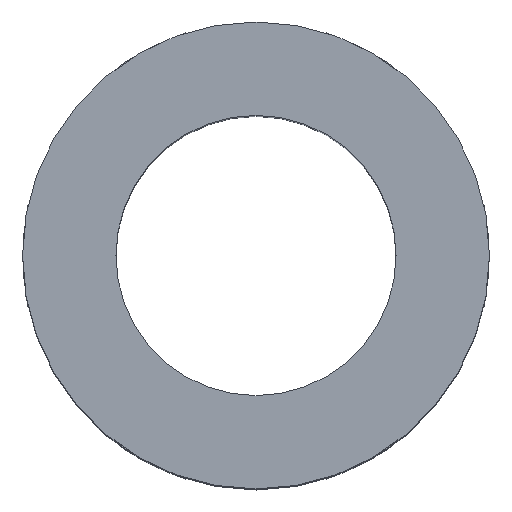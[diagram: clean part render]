
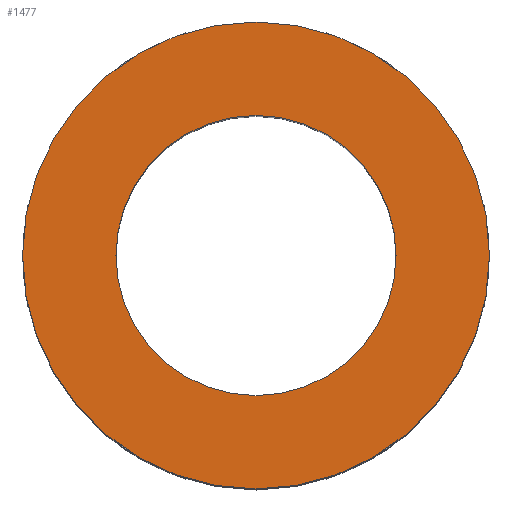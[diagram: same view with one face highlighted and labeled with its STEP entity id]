
A CAD part, top view. The second image highlights one B-rep face of the part: STEP entity #1477.
In plain terms, the highlighted planar face has unit normal (0, 0, 1).
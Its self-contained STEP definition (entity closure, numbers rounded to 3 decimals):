
#51=CARTESIAN_POINT('',(-15.875,0.,41.));
#52=VERTEX_POINT('',#51);
#68=CARTESIAN_POINT('',(15.875,0.,41.));
#69=VERTEX_POINT('',#68);
#76=CARTESIAN_POINT('',(0.0,0.0,41.));
#77=DIRECTION('',(0.0,0.0,-1.0));
#78=DIRECTION('',(-1.0,0.0,0.0));
#79=AXIS2_PLACEMENT_3D('',#76,#77,#78);
#80=CIRCLE('',#79,15.875);
#81=EDGE_CURVE('',#69,#52,#80,.T.);
#91=CARTESIAN_POINT('',(-9.525,0.,41.));
#92=VERTEX_POINT('',#91);
#101=CARTESIAN_POINT('',(9.525,0.,41.));
#102=VERTEX_POINT('',#101);
#103=CARTESIAN_POINT('',(0.0,0.0,41.));
#104=DIRECTION('',(0.0,0.0,-1.0));
#105=DIRECTION('',(-1.0,0.0,0.0));
#106=AXIS2_PLACEMENT_3D('',#103,#104,#105);
#107=CIRCLE('',#106,9.525);
#108=EDGE_CURVE('',#102,#92,#107,.T.);
#1436=CARTESIAN_POINT('',(0.0,0.0,41.));
#1437=DIRECTION('',(0.0,0.0,-1.0));
#1438=DIRECTION('',(-1.0,0.0,0.0));
#1439=AXIS2_PLACEMENT_3D('',#1436,#1437,#1438);
#1440=CIRCLE('',#1439,9.525);
#1441=EDGE_CURVE('',#92,#102,#1440,.T.);
#1452=CARTESIAN_POINT('',(0.0,0.0,41.));
#1453=DIRECTION('',(0.0,0.0,-1.0));
#1454=DIRECTION('',(-1.0,0.0,0.0));
#1455=AXIS2_PLACEMENT_3D('',#1452,#1453,#1454);
#1456=CIRCLE('',#1455,15.875);
#1457=EDGE_CURVE('',#52,#69,#1456,.T.);
#1464=CARTESIAN_POINT('',(0.0,0.0,41.));
#1465=DIRECTION('',(0.0,0.0,-1.0));
#1466=DIRECTION('',(-1.0,0.0,0.0));
#1467=AXIS2_PLACEMENT_3D('',#1464,#1465,#1466);
#1468=PLANE('',#1467);
#1469=ORIENTED_EDGE('',*,*,#81,.F.);
#1470=ORIENTED_EDGE('',*,*,#1457,.F.);
#1471=EDGE_LOOP('',(#1469,#1470));
#1472=FACE_OUTER_BOUND('',#1471,.T.);
#1473=ORIENTED_EDGE('',*,*,#108,.T.);
#1474=ORIENTED_EDGE('',*,*,#1441,.T.);
#1475=EDGE_LOOP('',(#1473,#1474));
#1476=FACE_BOUND('',#1475,.T.);
#1477=ADVANCED_FACE('',(#1472,#1476),#1468,.F.);
